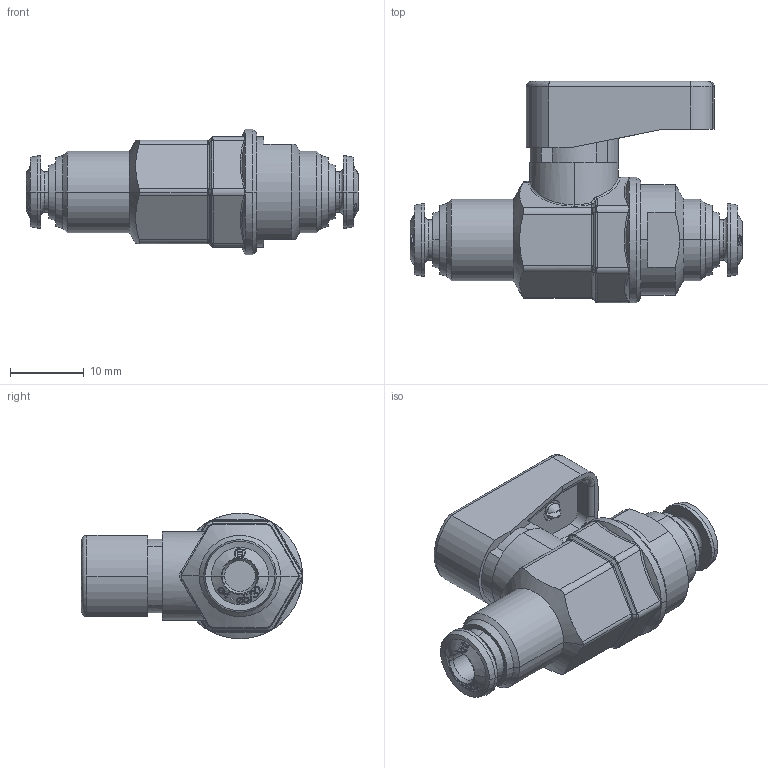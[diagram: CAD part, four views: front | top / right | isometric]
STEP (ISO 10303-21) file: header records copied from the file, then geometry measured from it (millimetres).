
FILE_DESCRIPTION (( 'STEP AP214' ), '1' );
FILE_NAME ('0656000001.step', '2012-10-02T16:35:33', ( '' ), ( '' ), 'SwSTEP 2.0', 'SolidWorks 2012', '' );
FILE_SCHEMA (( 'AUTOMOTIVE_DESIGN' ));
Products named in the file (1): 0656000001
Bounding box: 45 x 30 x 17 mm (x, y, z)
Volume: 7789.7 mm3; surface area: 4221.2 mm2
Topology: 8 solids, 18 shells, 882 faces, 2223 edges, 1430 vertices
Faces by surface type: bspline 385, plane 246, cylinder 128, cone 85, torus 36, sphere 2
Entity records: 40170 total; most frequent: CARTESIAN_POINT 22067, ORIENTED_EDGE 4446, DIRECTION 2504, EDGE_CURVE 2223, VERTEX_POINT 1430, B_SPLINE_CURVE_WITH_KNOTS 1009, EDGE_LOOP 947, FACE_OUTER_BOUND 882
